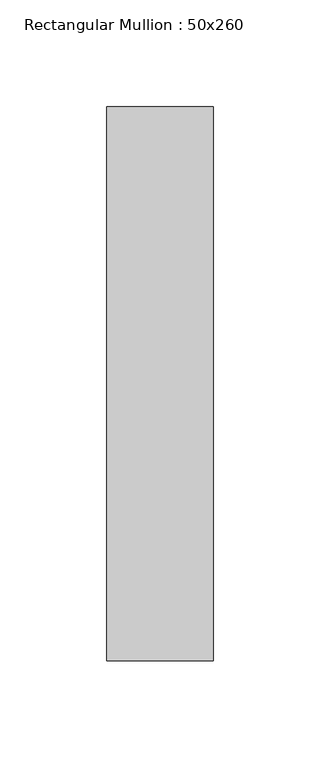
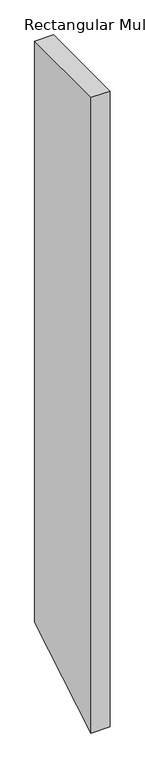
"""IFC4 building model written with IfcOpenShell, lengths in millimetres: member geometry, Rectangular Mullion : 50x260."""

from ifc_helpers import new_model, si_unit, frame, origin, place, context, project, spatial, polyline, outline, extrude, source, transform, mapped, element, save


def rectangular_mullion_50x260_7f9a6537(model_context):
    return source(origin(), model_context, "Body", "SweptSolid", [
        extrude(outline(polyline([(-130.0, 0.0), (130.0, 0.0), (130.0, -1632.2451146), (-130.0, -1785.6676669), (-130.0, 0.0)])), frame((-50.0, 0.0, 0.0), z_axis=(1.0, 0.0, 0.0), x_axis=(0.0, 1.0, 0.0)), (0.0, 0.0, 1.0), 50.0),
    ])


if __name__ == "__main__":
    model = new_model("IFC4")
    model_context = context("Model", 3, world=origin())
    ifc_project = project(units=[si_unit("LENGTHUNIT", "METRE", prefix="MILLI")], contexts=[model_context])
    site = spatial("IfcSite", under=ifc_project)
    building = spatial("IfcBuilding", under=site)
    placement = place(None, origin())
    rectangular_mullion_50x260_shape = rectangular_mullion_50x260_7f9a6537(model_context)
    element("IfcMember", 1, ObjectType="Rectangular Mullion : 50x260", at=placement, inside=building, context=model_context, shape_type="MappedRepresentation", body=[
        mapped(rectangular_mullion_50x260_shape, transform((0.0, 0.0, 0.0), x_axis=(1.0, 0.0, 0.0), y_axis=(0.0, 1.0, 0.0), z_axis=(0.0, 0.0, 1.0))),
    ])
    save(model, "model.ifc")
